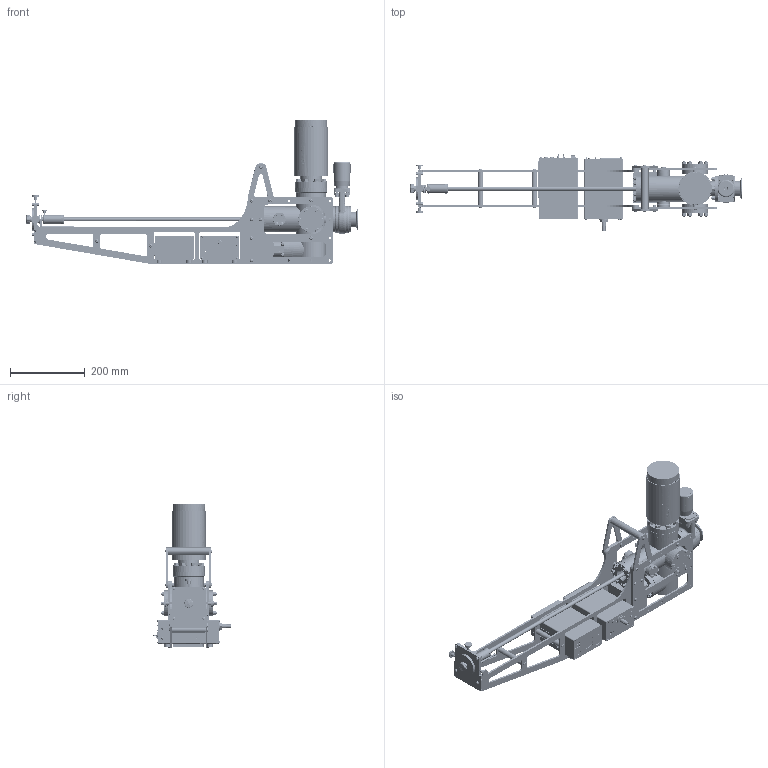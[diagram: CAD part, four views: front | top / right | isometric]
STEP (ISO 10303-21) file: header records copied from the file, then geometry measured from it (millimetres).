
FILE_DESCRIPTION(('Confidential','CAx-IF Rec.Pracs.--- Model Styling and Organization---1.2---2011-12-15'),'2;1');
FILE_NAME('W:\KONSTRUKTION\PRODUCTS\UH\UHVCT\UHVCTS\UHVCTS.stp','2023-09-28T12:08:57+00:00',('none'),('Ferrovac AG'),'CATIA Version 5 Release 21 SP 6 (IN-10)','CATIA V5 STEP AP214','PROPERTY OF FERROVAC AG');
FILE_SCHEMA(('AUTOMOTIVE_DESIGN { 1 0 10303 214 1 1 1 1 }'));
Products named in the file (1): UHVCTS
Bounding box: 890.2 x 206.53 x 387 mm (x, y, z)
Volume: 238310.8 mm3; surface area: 1533542 mm2
Topology: 1 solids, 262 shells, 20142 faces, 55833 edges, 36429 vertices
Faces by surface type: plane 11491, cylinder 3751, extrusion 1699, cone 1608, bspline 876, torus 470, sphere 247
Entity records: 711470 total; most frequent: CARTESIAN_POINT 216034, ORIENTED_EDGE 110528, DIRECTION 79100, EDGE_CURVE 55345, VECTOR 36777, VERTEX_POINT 36428, LINE 35078, AXIS2_PLACEMENT_3D 26213
